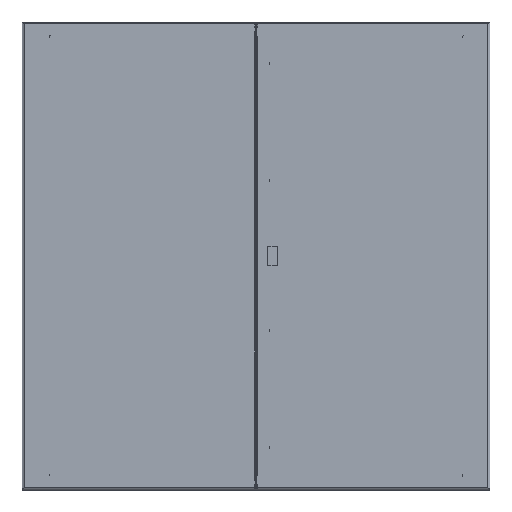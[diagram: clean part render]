
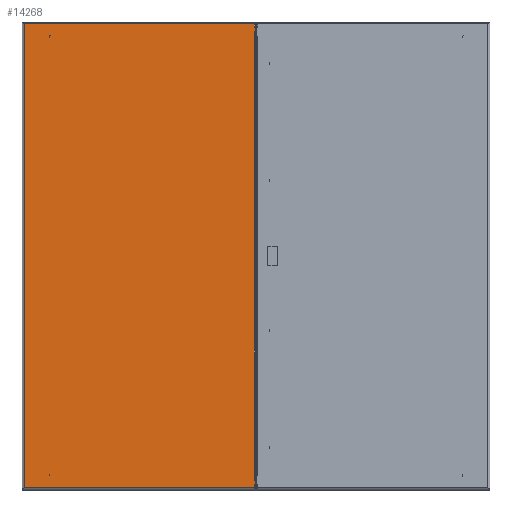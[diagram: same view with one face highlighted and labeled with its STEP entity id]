
A CAD part, top view. The second image highlights one B-rep face of the part: STEP entity #14268.
In plain terms, the highlighted planar face has unit normal (0, 0, 1).
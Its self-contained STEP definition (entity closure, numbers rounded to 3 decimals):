
#177 = VERTEX_POINT ( 'NONE', #25010 ) ;
#324 = CARTESIAN_POINT ( 'NONE',  ( 297.5, 597.5, 1.35 ) ) ;
#463 = CARTESIAN_POINT ( 'NONE',  ( 295.15, -586.5, 1.35 ) ) ;
#869 = ORIENTED_EDGE ( 'NONE', *, *, #28805, .T. ) ;
#1245 = CARTESIAN_POINT ( 'NONE',  ( 297.5, 575.25, 1.35 ) ) ;
#1479 = VECTOR ( 'NONE', #15089, 1000. ) ;
#2227 = DIRECTION ( 'NONE',  ( 0., -1., 0. ) ) ;
#2652 = VECTOR ( 'NONE', #10225, 1000. ) ;
#3242 = DIRECTION ( 'NONE',  ( -1., 0., 0. ) ) ;
#3331 = EDGE_CURVE ( 'NONE', #15927, #25041, #17979, .T. ) ;
#3450 = ORIENTED_EDGE ( 'NONE', *, *, #10552, .T. ) ;
#3761 = LINE ( 'NONE', #10654, #21314 ) ;
#4304 = CARTESIAN_POINT ( 'NONE',  ( 297.5, -575.25, 1.35 ) ) ;
#4450 = EDGE_CURVE ( 'NONE', #177, #25041, #23986, .T. ) ;
#4474 = VERTEX_POINT ( 'NONE', #8026 ) ;
#4605 = VECTOR ( 'NONE', #5971, 1000. ) ;
#4885 = CARTESIAN_POINT ( 'NONE',  ( 297.5, 575.25, 1.35 ) ) ;
#5006 = EDGE_CURVE ( 'NONE', #177, #9382, #18099, .T. ) ;
#5125 = EDGE_CURVE ( 'NONE', #27732, #4474, #12350, .T. ) ;
#5301 = EDGE_LOOP ( 'NONE', ( #869, #21030, #9268, #16441, #23342, #20889, #25604, #19029, #3450, #27738, #11450, #5403 ) ) ;
#5364 = DIRECTION ( 'NONE',  ( -1., 0., 0. ) ) ;
#5403 = ORIENTED_EDGE ( 'NONE', *, *, #14319, .T. ) ;
#5895 = CARTESIAN_POINT ( 'NONE',  ( -295.15, 595.15, 1.35 ) ) ;
#5971 = DIRECTION ( 'NONE',  ( 1., 0., 0. ) ) ;
#6003 = LINE ( 'NONE', #1245, #7957 ) ;
#6315 = DIRECTION ( 'NONE',  ( 1., 0., 0. ) ) ;
#6423 = DIRECTION ( 'NONE',  ( -1., 0., 0. ) ) ;
#7031 = VECTOR ( 'NONE', #6423, 1000. ) ;
#7944 = LINE ( 'NONE', #17331, #4605 ) ;
#7957 = VECTOR ( 'NONE', #3242, 1000. ) ;
#8026 = CARTESIAN_POINT ( 'NONE',  ( 297.5, 586.5, 1.35 ) ) ;
#8498 = DIRECTION ( 'NONE',  ( 0., 1., 0. ) ) ;
#9101 = VECTOR ( 'NONE', #26575, 1000. ) ;
#9268 = ORIENTED_EDGE ( 'NONE', *, *, #4450, .T. ) ;
#9382 = VERTEX_POINT ( 'NONE', #463 ) ;
#9645 = FACE_OUTER_BOUND ( 'NONE', #5301, .T. ) ;
#9966 = CARTESIAN_POINT ( 'NONE',  ( 295.15, -575.25, 1.35 ) ) ;
#10225 = DIRECTION ( 'NONE',  ( -1., 0., 0. ) ) ;
#10552 = EDGE_CURVE ( 'NONE', #27732, #15818, #17248, .T. ) ;
#10654 = CARTESIAN_POINT ( 'NONE',  ( 297.5, -597.5, 1.35 ) ) ;
#10788 = CARTESIAN_POINT ( 'NONE',  ( 295.15, -575.25, 1.35 ) ) ;
#10798 = CARTESIAN_POINT ( 'NONE',  ( 295.15, -595.15, 1.35 ) ) ;
#10875 = EDGE_CURVE ( 'NONE', #15927, #30208, #21670, .T. ) ;
#11450 = ORIENTED_EDGE ( 'NONE', *, *, #21874, .T. ) ;
#12345 = LINE ( 'NONE', #22057, #2652 ) ;
#12350 = LINE ( 'NONE', #16704, #23669 ) ;
#12351 = VERTEX_POINT ( 'NONE', #30266 ) ;
#12667 = EDGE_CURVE ( 'NONE', #18076, #30208, #6003, .T. ) ;
#12749 = CARTESIAN_POINT ( 'NONE',  ( 297.5, -597.5, 1.35 ) ) ;
#13530 = VERTEX_POINT ( 'NONE', #5895 ) ;
#13841 = CARTESIAN_POINT ( 'NONE',  ( -295.15, 596.115, 1.35 ) ) ;
#14268 = ADVANCED_FACE ( 'OUT_FRONT_CB', ( #9645 ), #21345, .F. ) ;
#14319 = EDGE_CURVE ( 'NONE', #25535, #12351, #7944, .T. ) ;
#15089 = DIRECTION ( 'NONE',  ( 0., 1., 0. ) ) ;
#15110 = CARTESIAN_POINT ( 'NONE',  ( 295.15, 595.15, 1.35 ) ) ;
#15332 = VECTOR ( 'NONE', #6315, 1000. ) ;
#15509 = VECTOR ( 'NONE', #19371, 1000. ) ;
#15818 = VERTEX_POINT ( 'NONE', #15110 ) ;
#15927 = VERTEX_POINT ( 'NONE', #10788 ) ;
#15984 = EDGE_CURVE ( 'NONE', #18076, #4474, #3761, .T. ) ;
#16441 = ORIENTED_EDGE ( 'NONE', *, *, #3331, .F. ) ;
#16704 = CARTESIAN_POINT ( 'NONE',  ( 297.5, 586.5, 1.35 ) ) ;
#16851 = DIRECTION ( 'NONE',  ( 1., 0., 0. ) ) ;
#17188 = DIRECTION ( 'NONE',  ( 0., 0., -1. ) ) ;
#17248 = LINE ( 'NONE', #29192, #9101 ) ;
#17331 = CARTESIAN_POINT ( 'NONE',  ( -296.115, -595.15, 1.35 ) ) ;
#17616 = CARTESIAN_POINT ( 'NONE',  ( 295.15, 575.25, 1.35 ) ) ;
#17979 = LINE ( 'NONE', #4304, #15332 ) ;
#18076 = VERTEX_POINT ( 'NONE', #4885 ) ;
#18099 = LINE ( 'NONE', #27421, #7031 ) ;
#18651 = LINE ( 'NONE', #13841, #27847 ) ;
#18828 = CARTESIAN_POINT ( 'NONE',  ( -295.15, -595.15, 1.35 ) ) ;
#19029 = ORIENTED_EDGE ( 'NONE', *, *, #5125, .F. ) ;
#19371 = DIRECTION ( 'NONE',  ( 0., 1., 0. ) ) ;
#20572 = CARTESIAN_POINT ( 'NONE',  ( 297.5, -575.25, 1.35 ) ) ;
#20733 = VECTOR ( 'NONE', #8498, 1000. ) ;
#20889 = ORIENTED_EDGE ( 'NONE', *, *, #12667, .F. ) ;
#21030 = ORIENTED_EDGE ( 'NONE', *, *, #5006, .F. ) ;
#21314 = VECTOR ( 'NONE', #25047, 1000. ) ;
#21345 = PLANE ( 'NONE',  #22721 ) ;
#21670 = LINE ( 'NONE', #9966, #15509 ) ;
#21874 = EDGE_CURVE ( 'NONE', #13530, #25535, #18651, .T. ) ;
#22057 = CARTESIAN_POINT ( 'NONE',  ( 297.5, 595.15, 1.35 ) ) ;
#22721 = AXIS2_PLACEMENT_3D ( 'NONE', #324, #17188, #5364 ) ;
#23342 = ORIENTED_EDGE ( 'NONE', *, *, #10875, .T. ) ;
#23669 = VECTOR ( 'NONE', #16851, 1000. ) ;
#23986 = LINE ( 'NONE', #12749, #1479 ) ;
#25010 = CARTESIAN_POINT ( 'NONE',  ( 297.5, -586.5, 1.35 ) ) ;
#25041 = VERTEX_POINT ( 'NONE', #20572 ) ;
#25047 = DIRECTION ( 'NONE',  ( 0., 1., 0. ) ) ;
#25535 = VERTEX_POINT ( 'NONE', #18828 ) ;
#25604 = ORIENTED_EDGE ( 'NONE', *, *, #15984, .T. ) ;
#26546 = CARTESIAN_POINT ( 'NONE',  ( 295.15, 586.5, 1.35 ) ) ;
#26575 = DIRECTION ( 'NONE',  ( 0., 1., 0. ) ) ;
#26779 = LINE ( 'NONE', #10798, #20733 ) ;
#27421 = CARTESIAN_POINT ( 'NONE',  ( 297.5, -586.5, 1.35 ) ) ;
#27732 = VERTEX_POINT ( 'NONE', #26546 ) ;
#27738 = ORIENTED_EDGE ( 'NONE', *, *, #30111, .T. ) ;
#27847 = VECTOR ( 'NONE', #2227, 1000. ) ;
#28805 = EDGE_CURVE ( 'NONE', #12351, #9382, #26779, .T. ) ;
#29192 = CARTESIAN_POINT ( 'NONE',  ( 295.15, 586.5, 1.35 ) ) ;
#30111 = EDGE_CURVE ( 'NONE', #15818, #13530, #12345, .T. ) ;
#30208 = VERTEX_POINT ( 'NONE', #17616 ) ;
#30266 = CARTESIAN_POINT ( 'NONE',  ( 295.15, -595.15, 1.35 ) ) ;
